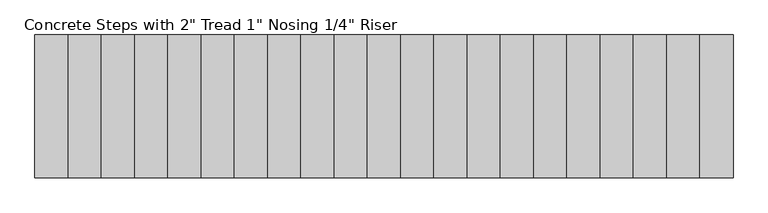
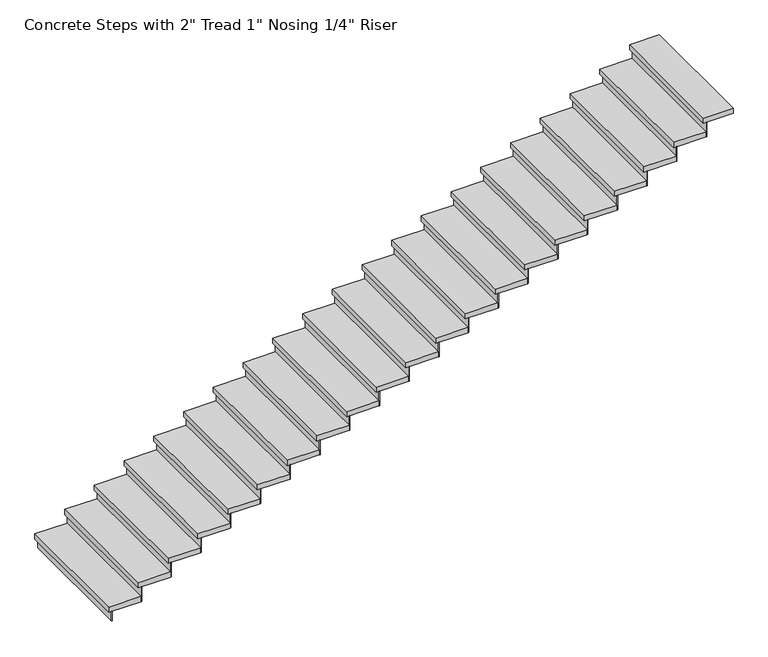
"""IFC4 building model written with IfcOpenShell, lengths in millimetres: stair flight geometry."""

from ifc_helpers import new_model, si_unit, frame, origin, origin_with_axes, place, context, project, spatial, polyline, outline, extrude, source, transform, mapped, element, save


def stair_flight_c7a47ad9(model_context):
    return source(origin(), model_context, "Body", "SweptSolid", [
        extrude(outline(polyline([(-38912.5313244, -31422.1775116), (-38918.8813244, -31422.1775116), (-38918.8813244, -30222.1775116), (-38912.5313244, -30222.1775116), (-38912.5313244, -31422.1775116)])), origin_with_axes(), (0.0, 0.0, 1.0), 94.3428571),
        extrude(outline(polyline([(-38639.4813244, -30222.1775116), (-38639.4813244, -31422.1775116), (-38944.2813244, -31422.1775116), (-38944.2813244, -30222.1775116), (-38639.4813244, -30222.1775116)])), frame((0.0, 0.0, 94.3428571), z_axis=(0.0, 0.0, 1.0), x_axis=(1.0, 0.0, 0.0)), (0.0, 0.0, 1.0), 50.8),
        extrude(outline(polyline([(-38633.1313244, -31422.1775116), (-38639.4813244, -31422.1775116), (-38639.4813244, -30222.1775116), (-38633.1313244, -30222.1775116), (-38633.1313244, -31422.1775116)])), frame((0.0, 0.0, 94.3428571), z_axis=(0.0, 0.0, 1.0), x_axis=(1.0, 0.0, 0.0)), (0.0, 0.0, 1.0), 145.1428571),
        extrude(outline(polyline([(-38360.0813244, -30222.1775116), (-38360.0813244, -31422.1775116), (-38664.8813244, -31422.1775116), (-38664.8813244, -30222.1775116), (-38360.0813244, -30222.1775116)])), frame((0.0, 0.0, 239.4857143), z_axis=(0.0, 0.0, 1.0), x_axis=(1.0, 0.0, 0.0)), (0.0, 0.0, 1.0), 50.8),
        extrude(outline(polyline([(-38353.7313244, -31422.1775116), (-38360.0813244, -31422.1775116), (-38360.0813244, -30222.1775116), (-38353.7313244, -30222.1775116), (-38353.7313244, -31422.1775116)])), frame((0.0, 0.0, 239.4857143), z_axis=(0.0, 0.0, 1.0), x_axis=(1.0, 0.0, 0.0)), (0.0, 0.0, 1.0), 145.1428571),
        extrude(outline(polyline([(-38080.6813244, -30222.1775116), (-38080.6813244, -31422.1775116), (-38385.4813244, -31422.1775116), (-38385.4813244, -30222.1775116), (-38080.6813244, -30222.1775116)])), frame((0.0, 0.0, 384.6285714), z_axis=(0.0, 0.0, 1.0), x_axis=(1.0, 0.0, 0.0)), (0.0, 0.0, 1.0), 50.8),
        extrude(outline(polyline([(-38074.3313244, -31422.1775116), (-38080.6813244, -31422.1775116), (-38080.6813244, -30222.1775116), (-38074.3313244, -30222.1775116), (-38074.3313244, -31422.1775116)])), frame((0.0, 0.0, 384.6285714), z_axis=(0.0, 0.0, 1.0), x_axis=(1.0, 0.0, 0.0)), (0.0, 0.0, 1.0), 145.1428571),
        extrude(outline(polyline([(-37801.2813244, -30222.1775116), (-37801.2813244, -31422.1775116), (-38106.0813244, -31422.1775116), (-38106.0813244, -30222.1775116), (-37801.2813244, -30222.1775116)])), frame((0.0, 0.0, 529.7714286), z_axis=(0.0, 0.0, 1.0), x_axis=(1.0, 0.0, 0.0)), (0.0, 0.0, 1.0), 50.8),
        extrude(outline(polyline([(-37794.9313244, -31422.1775116), (-37801.2813244, -31422.1775116), (-37801.2813244, -30222.1775116), (-37794.9313244, -30222.1775116), (-37794.9313244, -31422.1775116)])), frame((0.0, 0.0, 529.7714286), z_axis=(0.0, 0.0, 1.0), x_axis=(1.0, 0.0, 0.0)), (0.0, 0.0, 1.0), 145.1428571),
        extrude(outline(polyline([(-37521.8813244, -30222.1775116), (-37521.8813244, -31422.1775116), (-37826.6813244, -31422.1775116), (-37826.6813244, -30222.1775116), (-37521.8813244, -30222.1775116)])), frame((0.0, 0.0, 674.9142857), z_axis=(0.0, 0.0, 1.0), x_axis=(1.0, 0.0, 0.0)), (0.0, 0.0, 1.0), 50.8),
        extrude(outline(polyline([(-37515.5313244, -31422.1775116), (-37521.8813244, -31422.1775116), (-37521.8813244, -30222.1775116), (-37515.5313244, -30222.1775116), (-37515.5313244, -31422.1775116)])), frame((0.0, 0.0, 674.9142857), z_axis=(0.0, 0.0, 1.0), x_axis=(1.0, 0.0, 0.0)), (0.0, 0.0, 1.0), 145.1428571),
        extrude(outline(polyline([(-37242.4813244, -30222.1775116), (-37242.4813244, -31422.1775116), (-37547.2813244, -31422.1775116), (-37547.2813244, -30222.1775116), (-37242.4813244, -30222.1775116)])), frame((0.0, 0.0, 820.0571429), z_axis=(0.0, 0.0, 1.0), x_axis=(1.0, 0.0, 0.0)), (0.0, 0.0, 1.0), 50.8),
        extrude(outline(polyline([(-37236.1313244, -31422.1775116), (-37242.4813244, -31422.1775116), (-37242.4813244, -30222.1775116), (-37236.1313244, -30222.1775116), (-37236.1313244, -31422.1775116)])), frame((0.0, 0.0, 820.0571429), z_axis=(0.0, 0.0, 1.0), x_axis=(1.0, 0.0, 0.0)), (0.0, 0.0, 1.0), 145.1428571),
        extrude(outline(polyline([(-36963.0813244, -30222.1775116), (-36963.0813244, -31422.1775116), (-37267.8813244, -31422.1775116), (-37267.8813244, -30222.1775116), (-36963.0813244, -30222.1775116)])), frame((0.0, 0.0, 965.2), z_axis=(0.0, 0.0, 1.0), x_axis=(1.0, 0.0, 0.0)), (0.0, 0.0, 1.0), 50.8),
        extrude(outline(polyline([(-36956.7313244, -31422.1775116), (-36963.0813244, -31422.1775116), (-36963.0813244, -30222.1775116), (-36956.7313244, -30222.1775116), (-36956.7313244, -31422.1775116)])), frame((0.0, 0.0, 965.2), z_axis=(0.0, 0.0, 1.0), x_axis=(1.0, 0.0, 0.0)), (0.0, 0.0, 1.0), 145.1428571),
        extrude(outline(polyline([(-36683.6813244, -30222.1775116), (-36683.6813244, -31422.1775116), (-36988.4813244, -31422.1775116), (-36988.4813244, -30222.1775116), (-36683.6813244, -30222.1775116)])), frame((0.0, 0.0, 1110.3428571), z_axis=(0.0, 0.0, 1.0), x_axis=(1.0, 0.0, 0.0)), (0.0, 0.0, 1.0), 50.8),
        extrude(outline(polyline([(-36677.3313244, -31422.1775116), (-36683.6813244, -31422.1775116), (-36683.6813244, -30222.1775116), (-36677.3313244, -30222.1775116), (-36677.3313244, -31422.1775116)])), frame((0.0, 0.0, 1110.3428571), z_axis=(0.0, 0.0, 1.0), x_axis=(1.0, 0.0, 0.0)), (0.0, 0.0, 1.0), 145.1428571),
        extrude(outline(polyline([(-36404.2813244, -30222.1775116), (-36404.2813244, -31422.1775116), (-36709.0813244, -31422.1775116), (-36709.0813244, -30222.1775116), (-36404.2813244, -30222.1775116)])), frame((0.0, 0.0, 1255.4857143), z_axis=(0.0, 0.0, 1.0), x_axis=(1.0, 0.0, 0.0)), (0.0, 0.0, 1.0), 50.8),
        extrude(outline(polyline([(-36397.9313244, -31422.1775116), (-36404.2813244, -31422.1775116), (-36404.2813244, -30222.1775116), (-36397.9313244, -30222.1775116), (-36397.9313244, -31422.1775116)])), frame((0.0, 0.0, 1255.4857143), z_axis=(0.0, 0.0, 1.0), x_axis=(1.0, 0.0, 0.0)), (0.0, 0.0, 1.0), 145.1428571),
        extrude(outline(polyline([(-36124.8813244, -30222.1775116), (-36124.8813244, -31422.1775116), (-36429.6813244, -31422.1775116), (-36429.6813244, -30222.1775116), (-36124.8813244, -30222.1775116)])), frame((0.0, 0.0, 1400.6285714), z_axis=(0.0, 0.0, 1.0), x_axis=(1.0, 0.0, 0.0)), (0.0, 0.0, 1.0), 50.8),
        extrude(outline(polyline([(-36118.5313244, -31422.1775116), (-36124.8813244, -31422.1775116), (-36124.8813244, -30222.1775116), (-36118.5313244, -30222.1775116), (-36118.5313244, -31422.1775116)])), frame((0.0, 0.0, 1400.6285714), z_axis=(0.0, 0.0, 1.0), x_axis=(1.0, 0.0, 0.0)), (0.0, 0.0, 1.0), 145.1428571),
        extrude(outline(polyline([(-35845.4813244, -30222.1775116), (-35845.4813244, -31422.1775116), (-36150.2813244, -31422.1775116), (-36150.2813244, -30222.1775116), (-35845.4813244, -30222.1775116)])), frame((0.0, 0.0, 1545.7714286), z_axis=(0.0, 0.0, 1.0), x_axis=(1.0, 0.0, 0.0)), (0.0, 0.0, 1.0), 50.8),
        extrude(outline(polyline([(-35839.1313244, -31422.1775116), (-35845.4813244, -31422.1775116), (-35845.4813244, -30222.1775116), (-35839.1313244, -30222.1775116), (-35839.1313244, -31422.1775116)])), frame((0.0, 0.0, 1545.7714286), z_axis=(0.0, 0.0, 1.0), x_axis=(1.0, 0.0, 0.0)), (0.0, 0.0, 1.0), 145.1428571),
        extrude(outline(polyline([(-35566.0813244, -30222.1775116), (-35566.0813244, -31422.1775116), (-35870.8813244, -31422.1775116), (-35870.8813244, -30222.1775116), (-35566.0813244, -30222.1775116)])), frame((0.0, 0.0, 1690.9142857), z_axis=(0.0, 0.0, 1.0), x_axis=(1.0, 0.0, 0.0)), (0.0, 0.0, 1.0), 50.8),
        extrude(outline(polyline([(-35559.7313244, -31422.1775116), (-35566.0813244, -31422.1775116), (-35566.0813244, -30222.1775116), (-35559.7313244, -30222.1775116), (-35559.7313244, -31422.1775116)])), frame((0.0, 0.0, 1690.9142857), z_axis=(0.0, 0.0, 1.0), x_axis=(1.0, 0.0, 0.0)), (0.0, 0.0, 1.0), 145.1428571),
        extrude(outline(polyline([(-35286.6813244, -30222.1775116), (-35286.6813244, -31422.1775116), (-35591.4813244, -31422.1775116), (-35591.4813244, -30222.1775116), (-35286.6813244, -30222.1775116)])), frame((0.0, 0.0, 1836.0571429), z_axis=(0.0, 0.0, 1.0), x_axis=(1.0, 0.0, 0.0)), (0.0, 0.0, 1.0), 50.8),
        extrude(outline(polyline([(-35280.3313244, -31422.1775116), (-35286.6813244, -31422.1775116), (-35286.6813244, -30222.1775116), (-35280.3313244, -30222.1775116), (-35280.3313244, -31422.1775116)])), frame((0.0, 0.0, 1836.0571429), z_axis=(0.0, 0.0, 1.0), x_axis=(1.0, 0.0, 0.0)), (0.0, 0.0, 1.0), 145.1428571),
        extrude(outline(polyline([(-35007.2813244, -30222.1775116), (-35007.2813244, -31422.1775116), (-35312.0813244, -31422.1775116), (-35312.0813244, -30222.1775116), (-35007.2813244, -30222.1775116)])), frame((0.0, 0.0, 1981.2), z_axis=(0.0, 0.0, 1.0), x_axis=(1.0, 0.0, 0.0)), (0.0, 0.0, 1.0), 50.8),
        extrude(outline(polyline([(-35000.9313244, -31422.1775116), (-35007.2813244, -31422.1775116), (-35007.2813244, -30222.1775116), (-35000.9313244, -30222.1775116), (-35000.9313244, -31422.1775116)])), frame((0.0, 0.0, 1981.2), z_axis=(0.0, 0.0, 1.0), x_axis=(1.0, 0.0, 0.0)), (0.0, 0.0, 1.0), 145.1428571),
        extrude(outline(polyline([(-34727.8813244, -30222.1775116), (-34727.8813244, -31422.1775116), (-35032.6813244, -31422.1775116), (-35032.6813244, -30222.1775116), (-34727.8813244, -30222.1775116)])), frame((0.0, 0.0, 2126.3428571), z_axis=(0.0, 0.0, 1.0), x_axis=(1.0, 0.0, 0.0)), (0.0, 0.0, 1.0), 50.8),
        extrude(outline(polyline([(-34721.5313244, -31422.1775116), (-34727.8813244, -31422.1775116), (-34727.8813244, -30222.1775116), (-34721.5313244, -30222.1775116), (-34721.5313244, -31422.1775116)])), frame((0.0, 0.0, 2126.3428571), z_axis=(0.0, 0.0, 1.0), x_axis=(1.0, 0.0, 0.0)), (0.0, 0.0, 1.0), 145.1428571),
        extrude(outline(polyline([(-34448.4813244, -30222.1775116), (-34448.4813244, -31422.1775116), (-34753.2813244, -31422.1775116), (-34753.2813244, -30222.1775116), (-34448.4813244, -30222.1775116)])), frame((0.0, 0.0, 2271.4857143), z_axis=(0.0, 0.0, 1.0), x_axis=(1.0, 0.0, 0.0)), (0.0, 0.0, 1.0), 50.8),
        extrude(outline(polyline([(-34442.1313244, -31422.1775116), (-34448.4813244, -31422.1775116), (-34448.4813244, -30222.1775116), (-34442.1313244, -30222.1775116), (-34442.1313244, -31422.1775116)])), frame((0.0, 0.0, 2271.4857143), z_axis=(0.0, 0.0, 1.0), x_axis=(1.0, 0.0, 0.0)), (0.0, 0.0, 1.0), 145.1428571),
        extrude(outline(polyline([(-34169.0813244, -30222.1775116), (-34169.0813244, -31422.1775116), (-34473.8813244, -31422.1775116), (-34473.8813244, -30222.1775116), (-34169.0813244, -30222.1775116)])), frame((0.0, 0.0, 2416.6285714), z_axis=(0.0, 0.0, 1.0), x_axis=(1.0, 0.0, 0.0)), (0.0, 0.0, 1.0), 50.8),
        extrude(outline(polyline([(-34162.7313244, -31422.1775116), (-34169.0813244, -31422.1775116), (-34169.0813244, -30222.1775116), (-34162.7313244, -30222.1775116), (-34162.7313244, -31422.1775116)])), frame((0.0, 0.0, 2416.6285714), z_axis=(0.0, 0.0, 1.0), x_axis=(1.0, 0.0, 0.0)), (0.0, 0.0, 1.0), 145.1428571),
        extrude(outline(polyline([(-33889.6813244, -30222.1775116), (-33889.6813244, -31422.1775116), (-34194.4813244, -31422.1775116), (-34194.4813244, -30222.1775116), (-33889.6813244, -30222.1775116)])), frame((0.0, 0.0, 2561.7714286), z_axis=(0.0, 0.0, 1.0), x_axis=(1.0, 0.0, 0.0)), (0.0, 0.0, 1.0), 50.8),
        extrude(outline(polyline([(-33883.3313244, -31422.1775116), (-33889.6813244, -31422.1775116), (-33889.6813244, -30222.1775116), (-33883.3313244, -30222.1775116), (-33883.3313244, -31422.1775116)])), frame((0.0, 0.0, 2561.7714286), z_axis=(0.0, 0.0, 1.0), x_axis=(1.0, 0.0, 0.0)), (0.0, 0.0, 1.0), 145.1428571),
        extrude(outline(polyline([(-33610.2813244, -30222.1775116), (-33610.2813244, -31422.1775116), (-33915.0813244, -31422.1775116), (-33915.0813244, -30222.1775116), (-33610.2813244, -30222.1775116)])), frame((0.0, 0.0, 2706.9142857), z_axis=(0.0, 0.0, 1.0), x_axis=(1.0, 0.0, 0.0)), (0.0, 0.0, 1.0), 50.8),
        extrude(outline(polyline([(-33603.9313244, -31422.1775116), (-33610.2813244, -31422.1775116), (-33610.2813244, -30222.1775116), (-33603.9313244, -30222.1775116), (-33603.9313244, -31422.1775116)])), frame((0.0, 0.0, 2706.9142857), z_axis=(0.0, 0.0, 1.0), x_axis=(1.0, 0.0, 0.0)), (0.0, 0.0, 1.0), 145.1428571),
        extrude(outline(polyline([(-33330.8813244, -30222.1775116), (-33330.8813244, -31422.1775116), (-33635.6813244, -31422.1775116), (-33635.6813244, -30222.1775116), (-33330.8813244, -30222.1775116)])), frame((0.0, 0.0, 2852.0571429), z_axis=(0.0, 0.0, 1.0), x_axis=(1.0, 0.0, 0.0)), (0.0, 0.0, 1.0), 50.8),
        extrude(outline(polyline([(-33324.5313244, -31422.1775116), (-33330.8813244, -31422.1775116), (-33330.8813244, -30222.1775116), (-33324.5313244, -30222.1775116), (-33324.5313244, -31422.1775116)])), frame((0.0, 0.0, 2852.0571429), z_axis=(0.0, 0.0, 1.0), x_axis=(1.0, 0.0, 0.0)), (0.0, 0.0, 1.0), 145.1428571),
        extrude(outline(polyline([(-33076.8813244, -30222.1775116), (-33076.8813244, -31422.1775116), (-33356.2813244, -31422.1775116), (-33356.2813244, -30222.1775116), (-33076.8813244, -30222.1775116)])), frame((0.0, 0.0, 2997.2), z_axis=(0.0, 0.0, 1.0), x_axis=(1.0, 0.0, 0.0)), (0.0, 0.0, 1.0), 50.8),
    ])


if __name__ == "__main__":
    model = new_model("IFC4")
    model_context = context("Model", 3, world=origin())
    ifc_project = project(units=[si_unit("LENGTHUNIT", "METRE", prefix="MILLI")], contexts=[model_context])
    site = spatial("IfcSite", under=ifc_project)
    building = spatial("IfcBuilding", under=site)
    placement = place(None, origin())
    stair_flight_shape = stair_flight_c7a47ad9(model_context)
    element("IfcStairFlight", 1, ObjectType="Concrete Steps with 2\" Tread 1\" Nosing 1/4\" Riser", at=placement, inside=building, context=model_context, shape_type="MappedRepresentation", body=[
        mapped(stair_flight_shape, transform((0.0, 0.0, 0.0), x_axis=(1.0, 0.0, 0.0), y_axis=(0.0, 1.0, 0.0), z_axis=(0.0, 0.0, 1.0))),
    ])
    save(model, "model.ifc")
